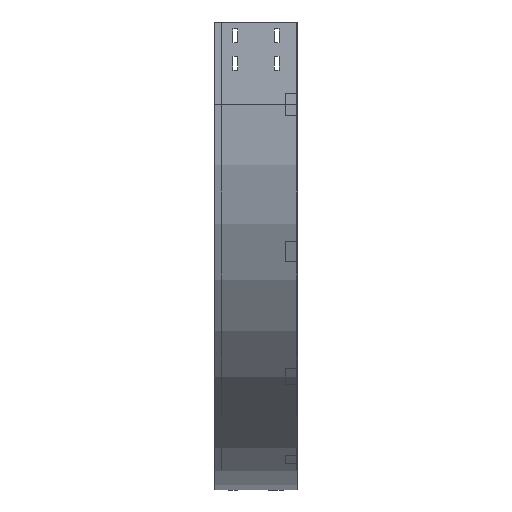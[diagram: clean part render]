
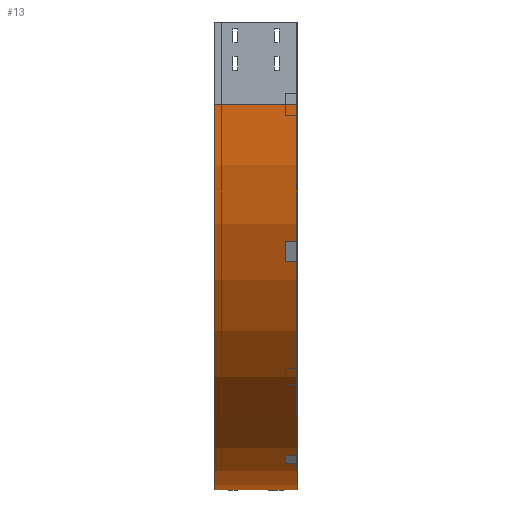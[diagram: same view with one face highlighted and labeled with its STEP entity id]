
A CAD part, left-side view. The second image highlights one B-rep face of the part: STEP entity #13.
In plain terms, the highlighted cylindrical face has radius 700 mm (diameter 1400 mm), a partial arc.
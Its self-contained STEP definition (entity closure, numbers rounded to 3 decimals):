
#13 = ADVANCED_FACE ( 'NONE', ( #2917 ), #3814, .T. ) ;
#116 = CARTESIAN_POINT ( 'NONE',  ( 700., 150., -150. ) ) ;
#192 = DIRECTION ( 'NONE',  ( 0., -1., 0. ) ) ;
#359 = DIRECTION ( 'NONE',  ( 0., 0., -1. ) ) ;
#632 = ORIENTED_EDGE ( 'NONE', *, *, #955, .T. ) ;
#698 = CARTESIAN_POINT ( 'NONE',  ( 700., 150., -850. ) ) ;
#844 = ORIENTED_EDGE ( 'NONE', *, *, #2972, .F. ) ;
#867 = CARTESIAN_POINT ( 'NONE',  ( 700., 0., -850. ) ) ;
#929 = VERTEX_POINT ( 'NONE', #698 ) ;
#955 = EDGE_CURVE ( 'NONE', #929, #2600, #3354, .T. ) ;
#1101 = CARTESIAN_POINT ( 'NONE',  ( 0., 0., -150. ) ) ;
#1227 = ORIENTED_EDGE ( 'NONE', *, *, #2593, .F. ) ;
#1431 = DIRECTION ( 'NONE',  ( 0., -1., 0. ) ) ;
#1580 = VERTEX_POINT ( 'NONE', #3388 ) ;
#1606 = CARTESIAN_POINT ( 'NONE',  ( 700., 0., -850. ) ) ;
#1620 = CIRCLE ( 'NONE', #3248, 700. ) ;
#1653 = VECTOR ( 'NONE', #1431, 1000. ) ;
#1777 = DIRECTION ( 'NONE',  ( 0., -1., 0. ) ) ;
#2052 = VECTOR ( 'NONE', #2806, 1000. ) ;
#2080 = EDGE_CURVE ( 'NONE', #1580, #929, #2410, .T. ) ;
#2317 = VERTEX_POINT ( 'NONE', #3616 ) ;
#2410 = CIRCLE ( 'NONE', #2910, 700. ) ;
#2588 = DIRECTION ( 'NONE',  ( -1., 0., 0. ) ) ;
#2593 = EDGE_CURVE ( 'NONE', #1580, #2317, #2909, .T. ) ;
#2600 = VERTEX_POINT ( 'NONE', #867 ) ;
#2646 = CARTESIAN_POINT ( 'NONE',  ( 700., 0., -150. ) ) ;
#2806 = DIRECTION ( 'NONE',  ( 0., -1., 0. ) ) ;
#2909 = LINE ( 'NONE', #1101, #1653 ) ;
#2910 = AXIS2_PLACEMENT_3D ( 'NONE', #116, #192, #3398 ) ;
#2917 = FACE_OUTER_BOUND ( 'NONE', #3574, .T. ) ;
#2927 = AXIS2_PLACEMENT_3D ( 'NONE', #2646, #3055, #359 ) ;
#2957 = CARTESIAN_POINT ( 'NONE',  ( 700., 0., -150. ) ) ;
#2972 = EDGE_CURVE ( 'NONE', #2317, #2600, #1620, .T. ) ;
#3055 = DIRECTION ( 'NONE',  ( 0., -1., 0. ) ) ;
#3248 = AXIS2_PLACEMENT_3D ( 'NONE', #2957, #1777, #2588 ) ;
#3354 = LINE ( 'NONE', #1606, #2052 ) ;
#3388 = CARTESIAN_POINT ( 'NONE',  ( 0., 150., -150. ) ) ;
#3398 = DIRECTION ( 'NONE',  ( -1., 0., 0. ) ) ;
#3574 = EDGE_LOOP ( 'NONE', ( #844, #1227, #3836, #632 ) ) ;
#3616 = CARTESIAN_POINT ( 'NONE',  ( 0., 0., -150. ) ) ;
#3814 = CYLINDRICAL_SURFACE ( 'NONE', #2927, 700. ) ;
#3836 = ORIENTED_EDGE ( 'NONE', *, *, #2080, .T. ) ;
